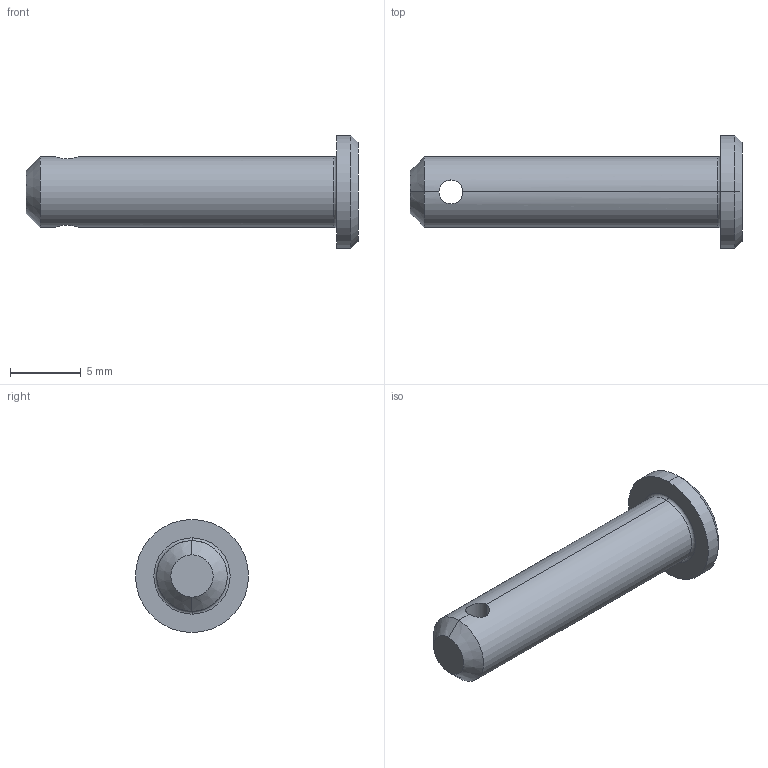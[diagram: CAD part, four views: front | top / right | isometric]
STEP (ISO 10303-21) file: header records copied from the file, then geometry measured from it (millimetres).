
FILE_DESCRIPTION (( 'STEP AP203' ), '1' );
FILE_NAME ('Wiberger-sms2360_5x22.step', '2012-10-09T08:57:53', ( 'Magnus' ), ( 'Wiberger' ), 'SwSTEP 2.0', 'SolidWorks 2011', '' );
FILE_SCHEMA (( 'CONFIG_CONTROL_DESIGN' ));
Length unit declared in the file: millimetre
Products named in the file (1): Wiberger-sms2360_5x22
Bounding box: 23.5 x 8 x 8 mm (x, y, z)
Volume: 486.5 mm3; surface area: 485.6 mm2
Topology: 1 solids, 1 shells, 15 faces, 32 edges, 18 vertices
Faces by surface type: cylinder 6, cone 4, plane 3, torus 2
Entity records: 543 total; most frequent: CARTESIAN_POINT 134, DIRECTION 76, ORIENTED_EDGE 64, AXIS2_PLACEMENT_3D 32, EDGE_CURVE 32, VERTEX_POINT 18, CIRCLE 16, EDGE_LOOP 16
